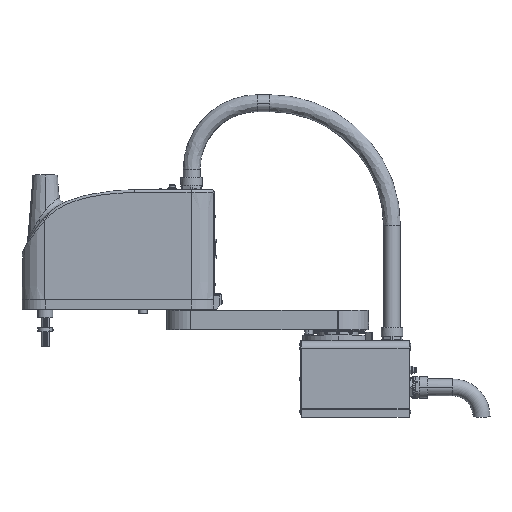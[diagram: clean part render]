
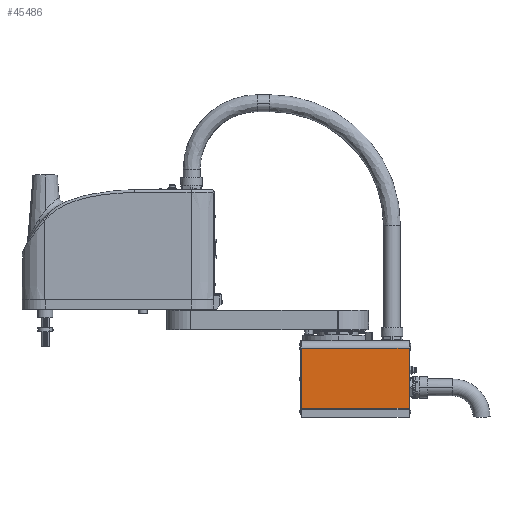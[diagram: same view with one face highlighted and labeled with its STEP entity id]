
A CAD part, top view. The second image highlights one B-rep face of the part: STEP entity #45486.
In plain terms, the highlighted planar face has unit normal (0, 0, -1).
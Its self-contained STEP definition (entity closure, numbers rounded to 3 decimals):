
#2240 = VECTOR ( 'NONE', #41507, 1000. ) ;
#3976 = PLANE ( 'NONE',  #9470 ) ;
#5177 = CARTESIAN_POINT ( 'NONE',  ( -75., -1.5, 85. ) ) ;
#5974 = EDGE_LOOP ( 'NONE', ( #21501, #12633, #99629, #26678 ) ) ;
#6340 = VERTEX_POINT ( 'NONE', #67092 ) ;
#8837 = EDGE_CURVE ( 'NONE', #93250, #6340, #83648, .T. ) ;
#9470 = AXIS2_PLACEMENT_3D ( 'NONE', #38062, #63228, #20987 ) ;
#12045 = VECTOR ( 'NONE', #14972, 1000. ) ;
#12633 = ORIENTED_EDGE ( 'NONE', *, *, #46220, .T. ) ;
#14564 = FACE_OUTER_BOUND ( 'NONE', #5974, .T. ) ;
#14972 = DIRECTION ( 'NONE',  ( 1., 0., 0. ) ) ;
#16050 = DIRECTION ( 'NONE',  ( 1., 0., 0. ) ) ;
#16861 = CARTESIAN_POINT ( 'NONE',  ( 145., -126.5, 85. ) ) ;
#18359 = LINE ( 'NONE', #16861, #105892 ) ;
#20987 = DIRECTION ( 'NONE',  ( -1., 0., 0. ) ) ;
#21501 = ORIENTED_EDGE ( 'NONE', *, *, #105203, .F. ) ;
#24154 = CARTESIAN_POINT ( 'NONE',  ( 145., -1.5, 85. ) ) ;
#25363 = CARTESIAN_POINT ( 'NONE',  ( 145., -1.5, 85. ) ) ;
#26678 = ORIENTED_EDGE ( 'NONE', *, *, #8837, .F. ) ;
#36484 = CARTESIAN_POINT ( 'NONE',  ( -75., -124.5, 85. ) ) ;
#38062 = CARTESIAN_POINT ( 'NONE',  ( 145., 13.5, 85. ) ) ;
#41507 = DIRECTION ( 'NONE',  ( 0., -1., 0. ) ) ;
#45486 = ADVANCED_FACE ( 'NONE', ( #14564 ), #3976, .T. ) ;
#46220 = EDGE_CURVE ( 'NONE', #81158, #71561, #72511, .T. ) ;
#62959 = EDGE_CURVE ( 'NONE', #71561, #6340, #18359, .T. ) ;
#63228 = DIRECTION ( 'NONE',  ( 0., 0., -1. ) ) ;
#67092 = CARTESIAN_POINT ( 'NONE',  ( 145., -124.5, 85. ) ) ;
#67452 = CARTESIAN_POINT ( 'NONE',  ( -75., -126.5, 85. ) ) ;
#71561 = VERTEX_POINT ( 'NONE', #25363 ) ;
#72511 = LINE ( 'NONE', #24154, #99017 ) ;
#72792 = CARTESIAN_POINT ( 'NONE',  ( -285.609, -124.5, 85. ) ) ;
#81158 = VERTEX_POINT ( 'NONE', #5177 ) ;
#83648 = LINE ( 'NONE', #72792, #12045 ) ;
#85074 = DIRECTION ( 'NONE',  ( 0., -1., 0. ) ) ;
#93250 = VERTEX_POINT ( 'NONE', #36484 ) ;
#99017 = VECTOR ( 'NONE', #16050, 1000. ) ;
#99629 = ORIENTED_EDGE ( 'NONE', *, *, #62959, .T. ) ;
#100411 = LINE ( 'NONE', #67452, #2240 ) ;
#105203 = EDGE_CURVE ( 'NONE', #81158, #93250, #100411, .T. ) ;
#105892 = VECTOR ( 'NONE', #85074, 1000. ) ;
